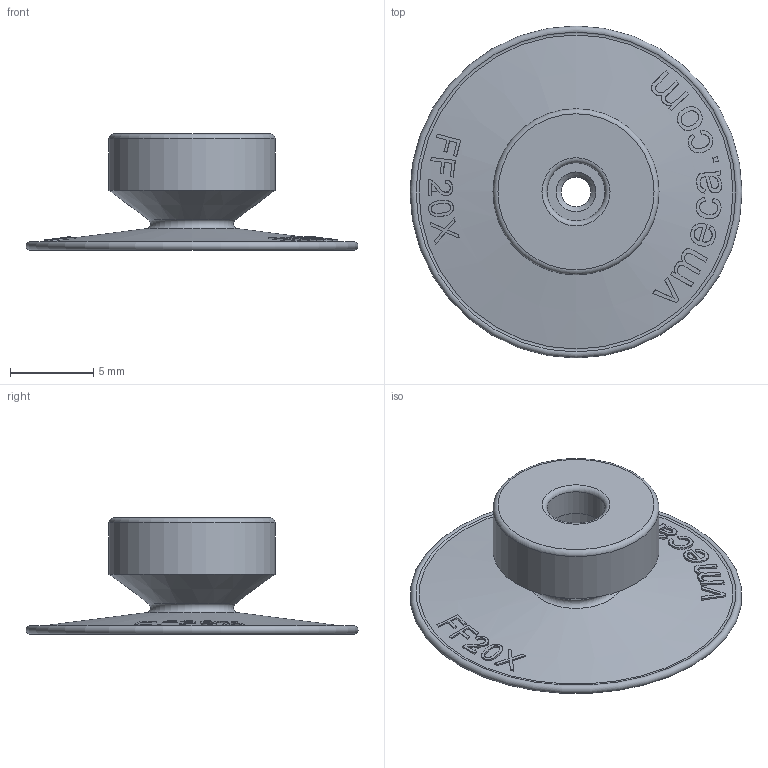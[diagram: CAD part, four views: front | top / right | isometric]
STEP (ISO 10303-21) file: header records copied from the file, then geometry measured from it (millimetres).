
FILE_DESCRIPTION( ( 'Unknown' ), '1' );
FILE_NAME( 'W:/弥龋覆/2016斥 脚屈 lip/mark free flat pad/FF20X.stp', 'Unknown', ( 'Unknown' ), ( 'Unknown' ), 'PSStep 10.0', 'Unknown', ' ' );
FILE_SCHEMA( ( 'AUTOMOTIVE_DESIGN { 1 0 10303 214 1 1 1 1 }' ) );
Length unit declared in the file: millimetre
Products named in the file (1): 1
Bounding box: 20 x 20 x 7 mm (x, y, z)
Volume: 431.3 mm3; surface area: 1003.6 mm2
Topology: 1 solids, 1 shells, 175 faces, 441 edges, 288 vertices
Faces by surface type: bspline 89, plane 35, cone 24, cylinder 20, torus 7
Full cylindrical faces by diameter (mm): 1.8 x1, 3.5 x1, 5.2 x1, 10 x1
Entity records: 9556 total; most frequent: CARTESIAN_POINT 4879, ORIENTED_EDGE 822, EDGE_CURVE 411, DIRECTION 358, B_SPLINE_CURVE_WITH_KNOTS 281, VERTEX_POINT 280, EDGE_LOOP 215, FACE_OUTER_BOUND 188
